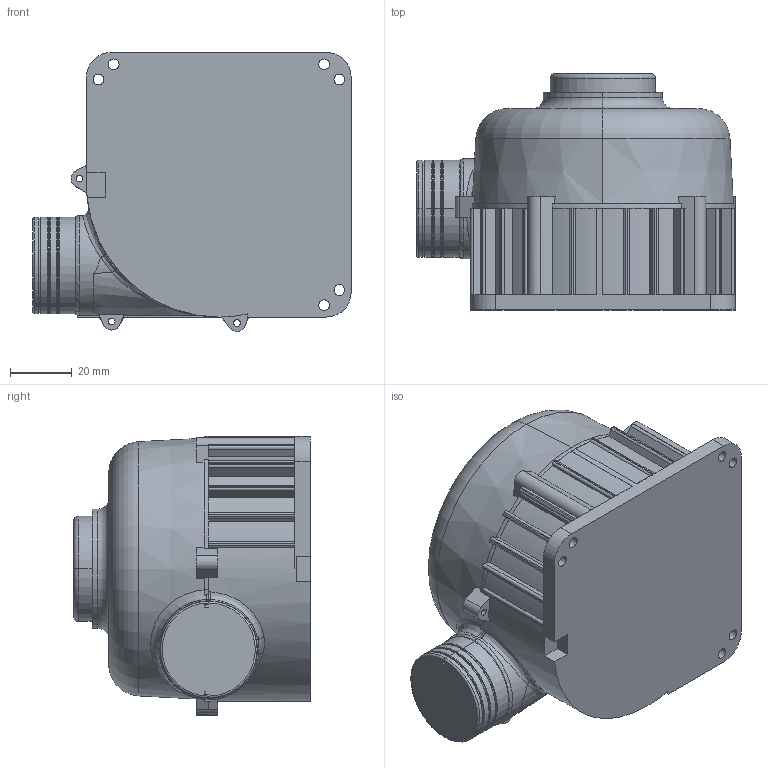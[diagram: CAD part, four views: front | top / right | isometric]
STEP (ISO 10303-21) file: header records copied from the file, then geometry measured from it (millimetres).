
FILE_DESCRIPTION((''),'2;1');
FILE_NAME('B-1_24','2026-04-22T14:12:58',('pc'),(''),'CREO PARAMETRIC BY PTC INC, 2018050','CREO PARAMETRIC BY PTC INC, 2018050','');
FILE_SCHEMA(('CONFIG_CONTROL_DESIGN','GEOMETRIC_VALIDATION_PROPERTIES_MIM'));
Length unit declared in the file: millimetre
Products named in the file (1): B-1_24
Bounding box: 103.53 x 76.86 x 90.74 mm (x, y, z)
Volume: 404694.5 mm3; surface area: 41433.1 mm2
Topology: 1 solids, 2 shells, 374 faces, 1012 edges, 659 vertices
Faces by surface type: plane 202, cylinder 130, torus 24, bspline 8, cone 7, revolution 2, extrusion 1
Entity records: 17273 total; most frequent: CARTESIAN_POINT 3432, DIRECTION 2086, ORIENTED_EDGE 2024, PRESENTATION_STYLE_ASSIGNMENT 1135, STYLED_ITEM 1015, CURVE_STYLE 1014, EDGE_CURVE 1012, AXIS2_PLACEMENT_3D 775
